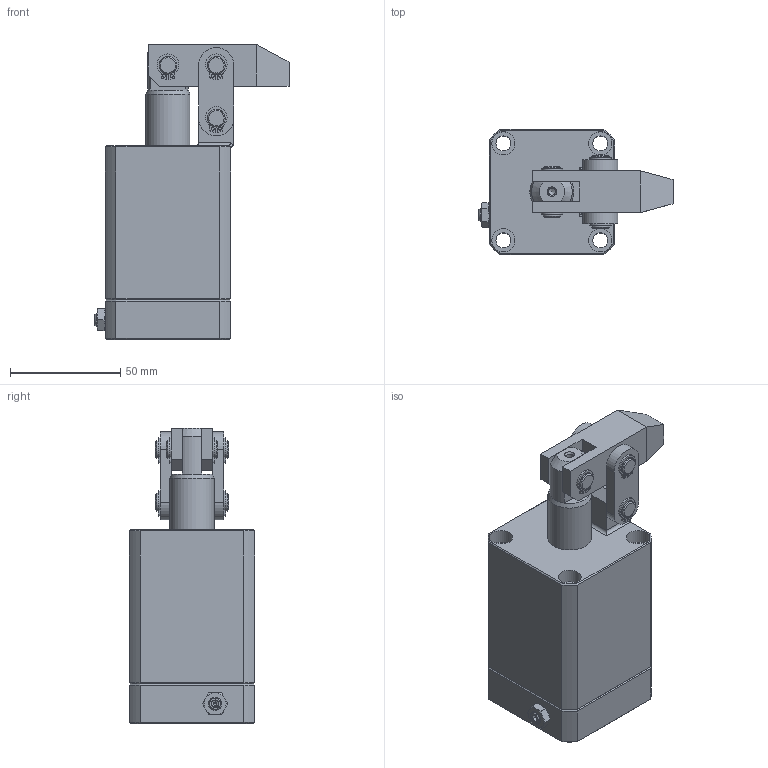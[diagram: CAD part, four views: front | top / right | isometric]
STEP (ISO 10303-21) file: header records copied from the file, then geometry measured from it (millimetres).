
FILE_DESCRIPTION(/* description */ ('Unknown'),/* implementation_level */ '2;1');
FILE_NAME(/* name */ 'HLC-MF32-A',/* time_stamp */ '2022-11-23T04:33:20+08:00',/* author */ ('Unknown'),/* organization */ ('Unknown'),/* preprocessor_version */ 'ST-DEVELOPER v16.7',/* originating_system */ 'DEX',/* authorisation */ $);
FILE_SCHEMA (('AUTOMOTIVE_DESIGN {1 0 10303 214 3 1 1}'));
Length unit declared in the file: millimetre
Products named in the file (8): HLC-MF32-A; HLC-MF32-CYLINDER; HLC-3202-MF-AXLE CENTRE; HLC-32-A; HLC-32-墊; HLC-32-PINµu-; HLC-32-PINªø·; HLC-32-C扣
Assembly tree (14 placements, depth 2):
  HLC-MF32-A
    HLC-MF32-CYLINDER
    HLC-3202-MF-AXLE CENTRE
    HLC-32-A
    HLC-32-墊  x2
    HLC-32-PINµu-
    HLC-32-PINªø·  x2
    HLC-32-C扣  x6
Bounding box: 88.1 x 57 x 134 mm (x, y, z)
Volume: 288975.7 mm3; surface area: 61089.1 mm2
Topology: 14 solids, 14 shells, 316 faces, 727 edges, 465 vertices
Faces by surface type: plane 138, cylinder 126, cone 38, bspline 12, torus 2
Full cylindrical faces by diameter (mm): 1.4 x12, 3.2 x1, 5 x2, 6 x1, 6.8 x4, 7.5 x6, 8 x18, 10 x2, 10.5 x4, 20 x2, 31.5 x1, 32 x1
Entity records: 6021 total; most frequent: CARTESIAN_POINT 1332, DIRECTION 923, ORIENTED_EDGE 824, EDGE_CURVE 412, AXIS2_PLACEMENT_3D 380, FACE_BOUND 314, EDGE_LOOP 313, VERTEX_POINT 284
